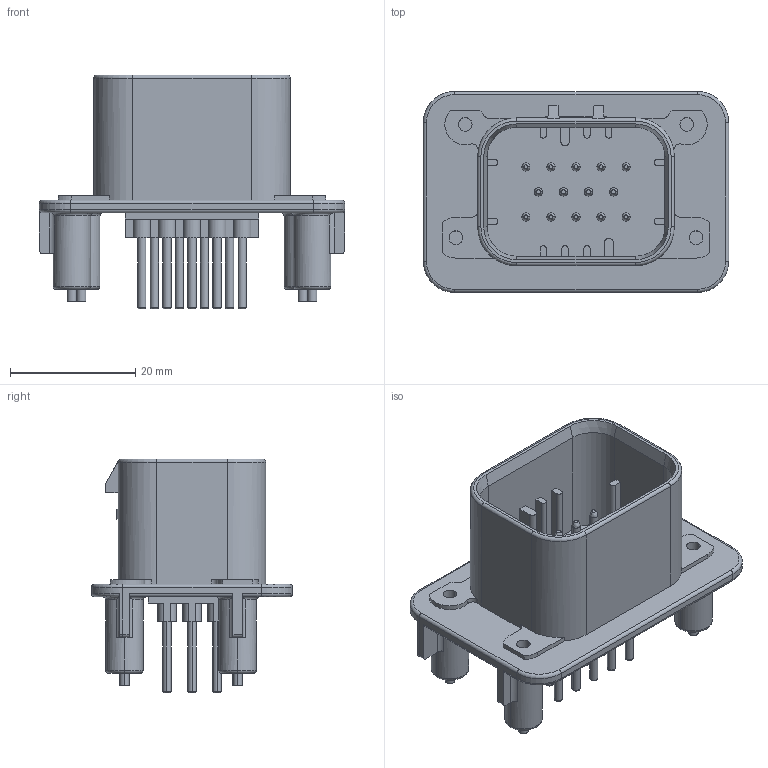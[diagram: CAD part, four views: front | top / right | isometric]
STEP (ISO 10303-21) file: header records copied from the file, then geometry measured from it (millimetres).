
FILE_DESCRIPTION((''),'2;1');
FILE_NAME('C-0776261-04-3','2007-09-02T',('workeradm'),('Tyco Electronics Corporation'),'PRO/ENGINEER BY PARAMETRIC TECHNOLOGY CORPORATION, 2005450','PRO/ENGINEER BY PARAMETRIC TECHNOLOGY CORPORATION, 2005450','');
FILE_SCHEMA(('CONFIG_CONTROL_DESIGN', 'GEOMETRIC_VALIDATION_PROPERTIES_MIM'));
Length unit declared in the file: millimetre
Products named in the file (1): C-0776261-04-3
Bounding box: 48.8 x 32.1 x 37.37 mm (x, y, z)
Volume: 8560.6 mm3; surface area: 10581.9 mm2
Topology: 1 solids, 1 shells, 477 faces, 1193 edges, 762 vertices
Faces by surface type: plane 216, cylinder 173, torus 54, bspline 28, cone 4, extrusion 2
Entity records: 15146 total; most frequent: CARTESIAN_POINT 3293, DIRECTION 2587, ORIENTED_EDGE 2386, EDGE_CURVE 1193, AXIS2_PLACEMENT_3D 961, VERTEX_POINT 762, VECTOR 665, LINE 663
